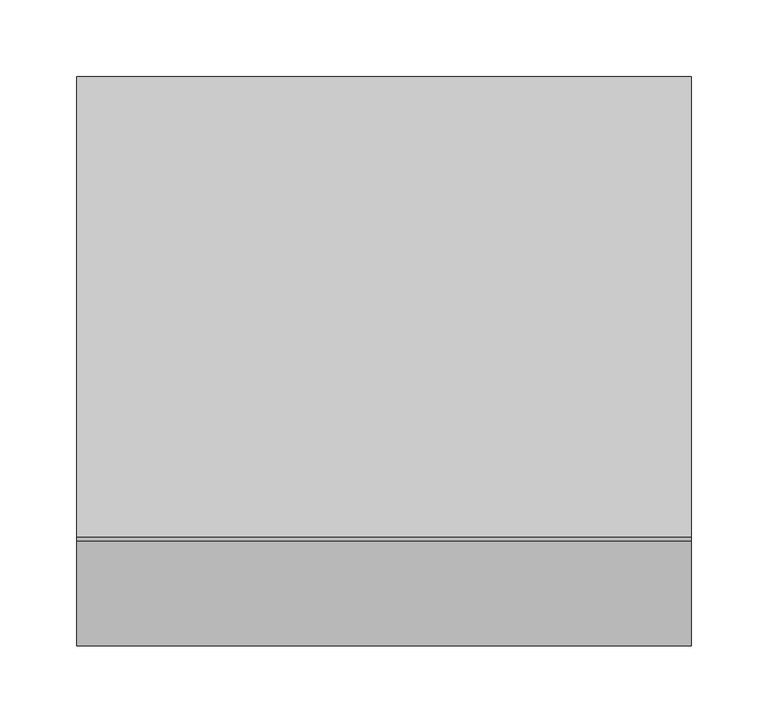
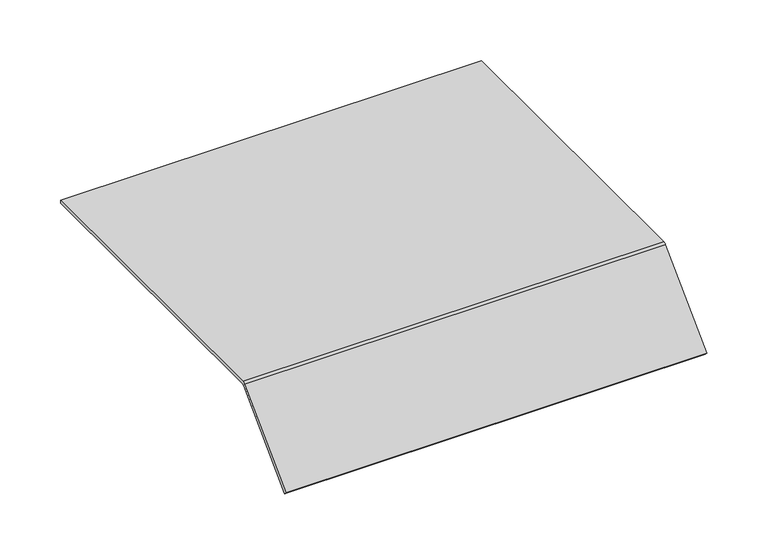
"""IFC4 building model written with IfcOpenShell, lengths in millimetres: proxy geometry, Electrical_Installation_Hager_Blank-Cover-400mm-Single-Sided-Height-70mm : Electrical_Installation_Hager_Blank-Cover-400mm-Single-Sided-Height-70mm."""

from ifc_helpers import new_model, si_unit, point, frame, frame_2d, origin, place, context, project, spatial, polyline, circle_curve, trimmed, segment, composite_curve, outline, extrude, source, transform, mapped, element, save


def electrical_fixtures_3529a418(model_context):
    return source(origin(), model_context, "Body", "SweptSolid", [
        extrude(outline(composite_curve([segment(polyline([(150.0, 40.5), (150.0, 37.5), (-149.8229541, 37.5)]), True, "CONTINUOUS"), segment(trimmed(circle_curve(frame_2d((-149.8229541, 36.0725733)), 1.4274267), [point((-149.8229541, 37.5))], [point((-150.8322972, 37.0819164))], True, "CARTESIAN"), True, "CONTINUOUS"), segment(polyline([(-150.8322972, 37.0819164), (-218.6627596, -30.7485461), (-220.78408, -28.6272257), (-152.8206472, 39.336207)]), True, "CONTINUOUS"), segment(trimmed(circle_curve(frame_2d((-150.0110025, 36.5265623)), 3.9734377), [point((-152.8206472, 39.336207))], [point((-150.0110025, 40.5))], False, "CARTESIAN"), True, "CONTINUOUS"), segment(polyline([(-150.0110025, 40.5), (150.0, 40.5)]), True, "CONTINUOUS")], self_intersect=False)), frame((0.0, 0.0, 0.0), z_axis=(1.0, 0.0, 0.0), x_axis=(0.0, 1.0, 0.0)), (0.0, 0.0, 1.0), 400.0),
    ])


if __name__ == "__main__":
    model = new_model("IFC4")
    model_context = context("Model", 3, world=origin())
    ifc_project = project(units=[si_unit("LENGTHUNIT", "METRE", prefix="MILLI")], contexts=[model_context])
    site = spatial("IfcSite", under=ifc_project)
    building = spatial("IfcBuilding", under=site)
    placement = place(None, origin())
    electrical_fixtures_shape = electrical_fixtures_3529a418(model_context)
    element("IfcBuildingElementProxy", 1, Name="Electrical_Installation_Hager_Blank-Cover-400mm-Single-Sided-Height-70mm : Electrical_Installation_Hager_Blank-Cover-400mm-Single-Sided-Height-70mm", ObjectType="Electrical_Installation_Hager_Blank-Cover-400mm-Single-Sided-Height-70mm : Electrical_Installation_Hager_Blank-Cover-400mm-Single-Sided-Height-70mm", at=placement, inside=building, context=model_context, shape_type="MappedRepresentation", body=[
        mapped(electrical_fixtures_shape, transform((0.0, 0.0, 0.0), x_axis=(1.0, 0.0, 0.0), y_axis=(0.0, 1.0, 0.0), z_axis=(0.0, 0.0, 1.0))),
    ])
    save(model, "model.ifc")
